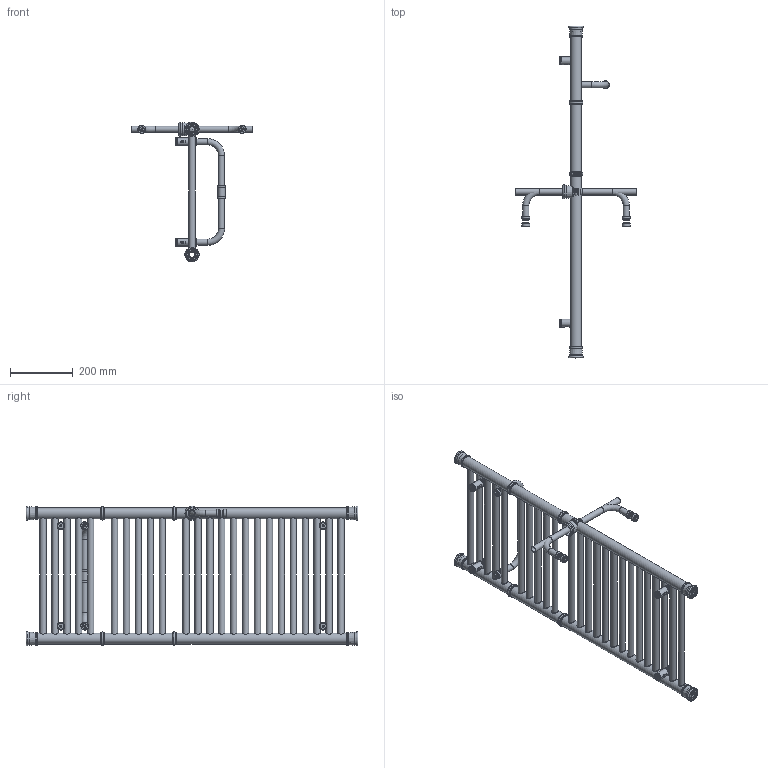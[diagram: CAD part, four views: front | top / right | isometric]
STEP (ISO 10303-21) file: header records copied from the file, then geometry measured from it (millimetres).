
FILE_DESCRIPTION( ( 'Unknown' ), '1' );
FILE_NAME( 'D:/Alplast sp. j/Witryna zespoBu - Projekty/Archiwum/Grzejniki Archiwum/Projekty/DESIGN PROGRAM/RETRO/Retro A4-400.stp', 'Unknown', ( 'Unknown' ), ( 'Unknown' ), 'PSStep 10.1', 'Unknown', ' ' );
FILE_SCHEMA( ( 'AUTOMOTIVE_DESIGN { 1 0 10303 214 1 1 1 1 }' ) );
Length unit declared in the file: millimetre
Products named in the file (55): Assem1; mocowanie do œciany; katurek z wkrêtem do mocowania do  sciany; suszarka Retro 400; Katurek fi 25 v4 ; wkrêt do katurka fi 25 v4; tulejka do mocowania grzejnika v3; mocowanie do grzejnika v3; zaœlepka do mocowania do œciany; detal-v3. par; element do suszarki do mocowania; element do suszarki do mocowania-oa33; tulejka do suszarki ; tulejka do suszarki -oa34; element do suszarki do mocowania ty³; element do suszarki do mocowania ty³-oa35; suszarka 400; kolektor Retro A4; kolektor Retro A4-oa0; Kana³ Prosty Retro 400; Kana³ Prosty Retro 400-oa1; Kana³ Prosty Retro 400-oa2; Kana³ Prosty Retro 400-oa3; Kana³ Prosty Retro 400-oa4; Kana³ Prosty Retro 400-oa5; Kana³ Prosty Retro 400-oa6; Kana³ Prosty Retro 400-oa7; Kana³ Prosty Retro 400-oa8; Kana³ Prosty Retro 400-oa9; Kana³ Prosty Retro 400-oa10; Kana³ Prosty Retro 400-oa11; Kana³ Prosty Retro 400-oa12; Kana³ Prosty Retro 400-oa13; Kana³ Prosty Retro 400-oa14; Kana³ Prosty Retro 400-oa15; Kana³ Prosty Retro 400-oa16; Kana³ Prosty Retro 400-oa17; Kana³ Prosty Retro 400-oa18; Kana³ Prosty Retro 400-oa19; Kana³ Prosty Retro 400-oa20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
Bounding box: 384 x 1058 x 444.97 mm (x, y, z)
Volume: 2293876 mm3; surface area: 3438585.6 mm2
Topology: 132 solids, 132 shells, 1084 faces, 2188 edges, 1402 vertices
Faces by surface type: cylinder 458, plane 322, torus 201, cone 84, bspline 12, sphere 7
Full cylindrical faces by diameter (mm): 4.917 x24, 5.9 x6, 6 x27, 6.3 x6, 6.4 x6, 15.5 x6, 17.5 x6, 17.6 x57, 18.631 x8, 20 x57, 20.3 x3, 20.5 x96, 20.6 x6, 21.15 x6, 21.9 x18, 22.8 x3, 24.5 x6, 25 x21, 25.25 x6, 25.3 x6, 32 x8, 32.4 x4, 35 x12, 35.3 x8, 35.5 x8, 39 x16, 41.15 x16
Entity records: 22157 total; most frequent: CARTESIAN_POINT 10737, DIRECTION 1608, ORIENTED_EDGE 910, EDGE_LOOP 892, AXIS2_PLACEMENT_3D 800, FACE_OUTER_BOUND 651, EDGE_CURVE 455, VERTEX_POINT 452
